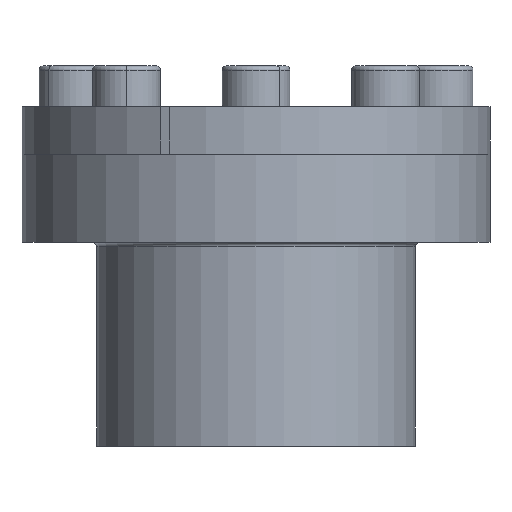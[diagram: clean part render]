
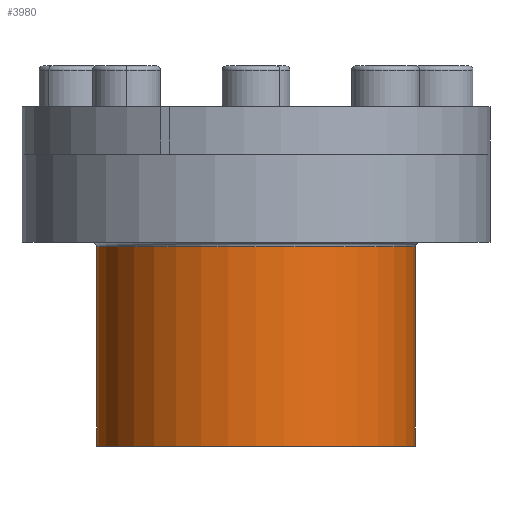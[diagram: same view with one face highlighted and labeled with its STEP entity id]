
A CAD part, front view. The second image highlights one B-rep face of the part: STEP entity #3980.
In plain terms, the highlighted cylindrical face has radius 23.5 mm (diameter 47 mm), a partial arc.
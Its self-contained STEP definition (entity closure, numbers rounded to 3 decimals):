
#409 = FACE_OUTER_BOUND ( 'NONE', #4329, .T. ) ;
#488 = CARTESIAN_POINT ( 'NONE',  ( 23.5, 0., -8.6 ) ) ;
#601 = VECTOR ( 'NONE', #3314, 1000. ) ;
#1286 = DIRECTION ( 'NONE',  ( 0., 0., -1. ) ) ;
#1799 = AXIS2_PLACEMENT_3D ( 'NONE', #5812, #12810, #6825 ) ;
#2681 = CARTESIAN_POINT ( 'NONE',  ( 23.5, 0., -38. ) ) ;
#2939 = LINE ( 'NONE', #6284, #7942 ) ;
#3314 = DIRECTION ( 'NONE',  ( 0., 0., -1. ) ) ;
#3498 = DIRECTION ( 'NONE',  ( -1., 0., 0. ) ) ;
#3622 = DIRECTION ( 'NONE',  ( 0., 0., -1. ) ) ;
#3980 = ADVANCED_FACE ( 'NONE', ( #409 ), #11839, .T. ) ;
#4085 = AXIS2_PLACEMENT_3D ( 'NONE', #6334, #12716, #3498 ) ;
#4329 = EDGE_LOOP ( 'NONE', ( #12188, #6937, #8056, #4826 ) ) ;
#4826 = ORIENTED_EDGE ( 'NONE', *, *, #8296, .F. ) ;
#5477 = VERTEX_POINT ( 'NONE', #2681 ) ;
#5716 = AXIS2_PLACEMENT_3D ( 'NONE', #9582, #3622, #10599 ) ;
#5812 = CARTESIAN_POINT ( 'NONE',  ( 0., 0., -38. ) ) ;
#6106 = VERTEX_POINT ( 'NONE', #9021 ) ;
#6284 = CARTESIAN_POINT ( 'NONE',  ( -23.5, 0., -8. ) ) ;
#6334 = CARTESIAN_POINT ( 'NONE',  ( 0., 0., -8. ) ) ;
#6825 = DIRECTION ( 'NONE',  ( -1., 0., 0. ) ) ;
#6937 = ORIENTED_EDGE ( 'NONE', *, *, #10843, .T. ) ;
#7364 = CARTESIAN_POINT ( 'NONE',  ( -23.5, 0., -38. ) ) ;
#7942 = VECTOR ( 'NONE', #1286, 1000. ) ;
#8056 = ORIENTED_EDGE ( 'NONE', *, *, #8067, .T. ) ;
#8067 = EDGE_CURVE ( 'NONE', #6106, #8681, #2939, .T. ) ;
#8168 = VERTEX_POINT ( 'NONE', #488 ) ;
#8296 = EDGE_CURVE ( 'NONE', #5477, #8681, #8554, .T. ) ;
#8554 = CIRCLE ( 'NONE', #1799, 23.5 ) ;
#8609 = LINE ( 'NONE', #10303, #601 ) ;
#8681 = VERTEX_POINT ( 'NONE', #7364 ) ;
#9021 = CARTESIAN_POINT ( 'NONE',  ( -23.5, 0., -8.6 ) ) ;
#9582 = CARTESIAN_POINT ( 'NONE',  ( 0., 0., -8.6 ) ) ;
#9866 = CIRCLE ( 'NONE', #5716, 23.5 ) ;
#10303 = CARTESIAN_POINT ( 'NONE',  ( 23.5, 0., -8. ) ) ;
#10599 = DIRECTION ( 'NONE',  ( -1., 0., 0. ) ) ;
#10843 = EDGE_CURVE ( 'NONE', #8168, #6106, #9866, .T. ) ;
#11248 = EDGE_CURVE ( 'NONE', #8168, #5477, #8609, .T. ) ;
#11839 = CYLINDRICAL_SURFACE ( 'NONE', #4085, 23.5 ) ;
#12188 = ORIENTED_EDGE ( 'NONE', *, *, #11248, .F. ) ;
#12716 = DIRECTION ( 'NONE',  ( 0., 0., -1. ) ) ;
#12810 = DIRECTION ( 'NONE',  ( 0., 0., -1. ) ) ;
